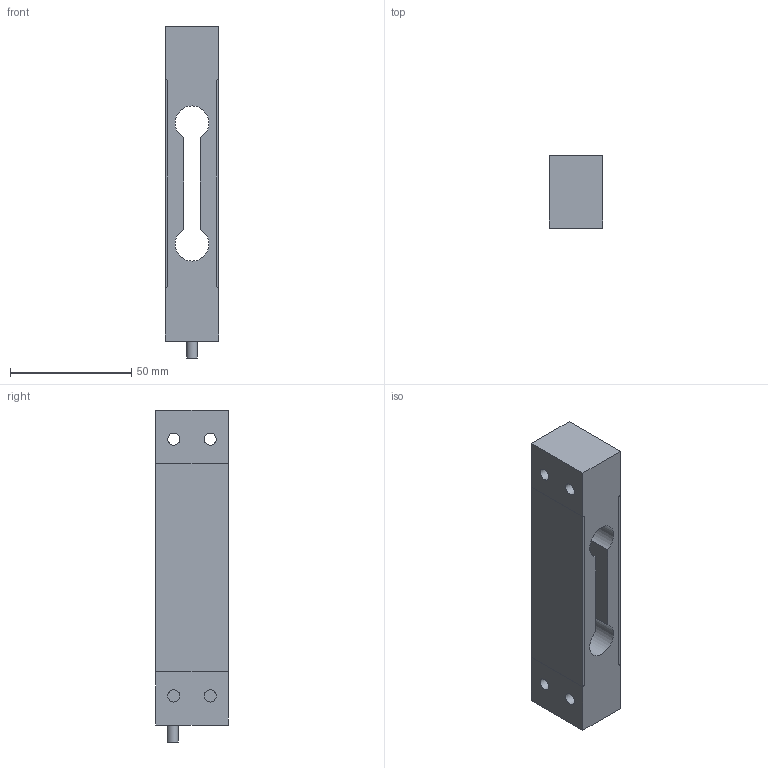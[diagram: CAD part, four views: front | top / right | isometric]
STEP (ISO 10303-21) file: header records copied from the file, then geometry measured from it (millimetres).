
FILE_DESCRIPTION (( 'STEP AP214' ), '1' );
FILE_NAME ('3D_KM302_30N-500N_komp.STEP', '2012-12-13T07:32:17', ( 'mega' ), ( 'mega' ), 'SwSTEP 2.0', 'SolidWorks 2012', '' );
FILE_SCHEMA (( 'AUTOMOTIVE_DESIGN' ));
Length unit declared in the file: millimetre
Products named in the file (1): 3D_KM302_30N-500N_komp
Bounding box: 22.2 x 30 x 137 mm (x, y, z)
Volume: 67749.1 mm3; surface area: 19607.1 mm2
Topology: 1 solids, 1 shells, 44 faces, 113 edges, 74 vertices
Faces by surface type: plane 29, cylinder 13, cone 2
Full cylindrical faces by diameter (mm): 4.5 x1, 5 x4
Entity records: 1495 total; most frequent: DIRECTION 220, CARTESIAN_POINT 217, ORIENTED_EDGE 204, EDGE_CURVE 102, LINE 74, VECTOR 74, AXIS2_PLACEMENT_3D 73, VERTEX_POINT 70
